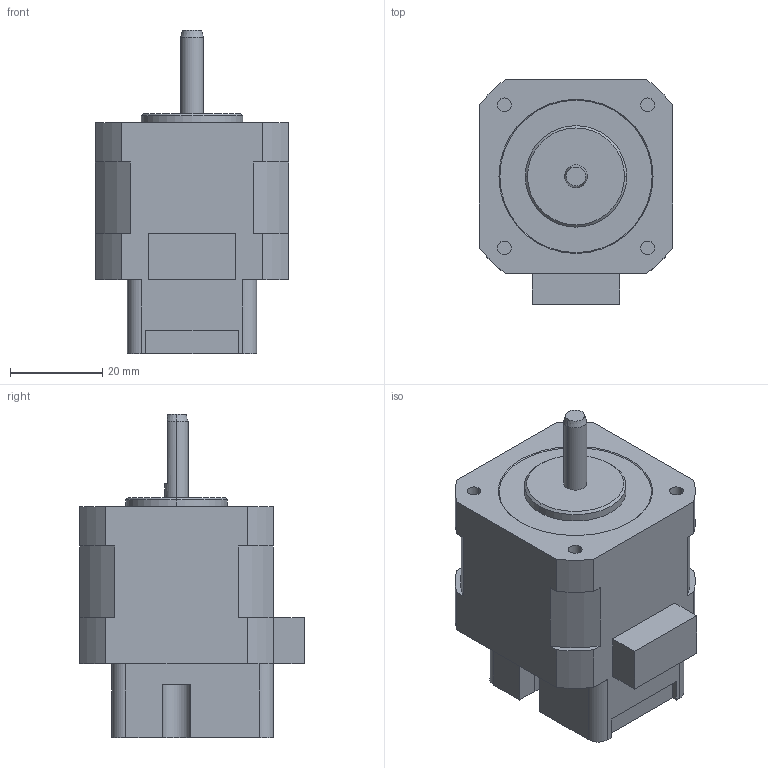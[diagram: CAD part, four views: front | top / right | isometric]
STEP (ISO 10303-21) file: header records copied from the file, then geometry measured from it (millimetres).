
FILE_DESCRIPTION (( 'STEP AP203' ), '1' );
FILE_NAME ('P-PMSA-U42D1LE-NL_3D.STEP', '2020-02-04T01:30:12', ( '' ), ( '' ), 'SwSTEP 2.0', 'SolidWorks 2018', '' );
FILE_SCHEMA (( 'CONFIG_CONTROL_DESIGN' ));
Length unit declared in the file: millimetre
Products named in the file (1): P-PMSA-U42D1LE-NL_3D
Bounding box: 42 x 48.7 x 70 mm (x, y, z)
Volume: 73963.1 mm3; surface area: 11900.4 mm2
Topology: 1 solids, 1 shells, 80 faces, 206 edges, 136 vertices
Faces by surface type: plane 42, cylinder 31, cone 7
Entity records: 2538 total; most frequent: DIRECTION 439, CARTESIAN_POINT 437, ORIENTED_EDGE 412, EDGE_CURVE 206, AXIS2_PLACEMENT_3D 154, VERTEX_POINT 136, LINE 131, VECTOR 131
